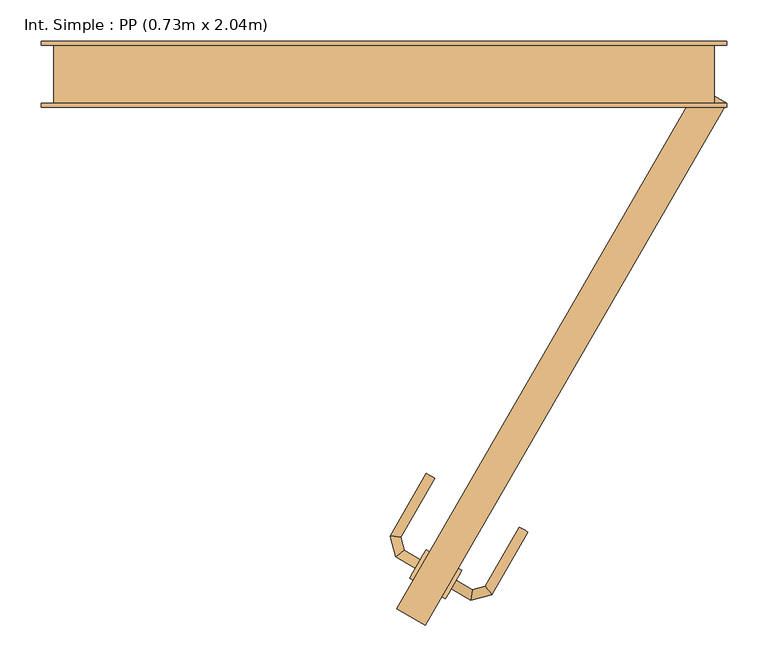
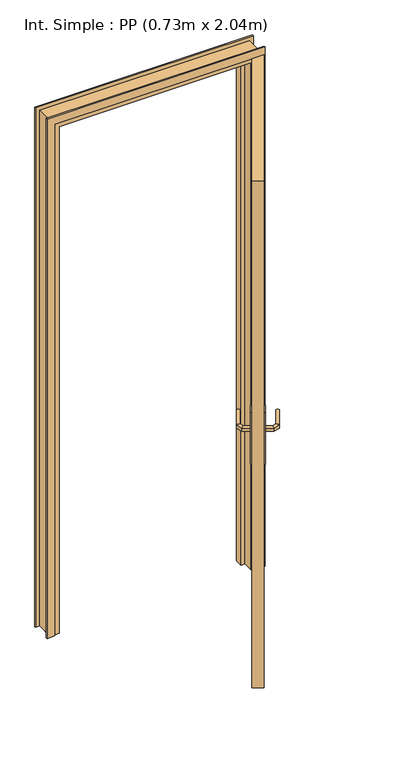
"""IFC4 building model written with IfcOpenShell, lengths in millimetres: door geometry, Int. Simple : PP (0.73m x 2.04m)."""

from ifc_helpers import new_model, si_unit, point, frame, frame_2d, origin, place, context, project, spatial, polyline, circle_curve, ellipse_curve, trimmed, segment, composite_curve, outline, extrude, faceted_brep, source, transform, mapped, element, save
from ifc_brep_helpers import plane_surface, cylinder_surface, advanced_brep


def int_simple_pp_0_73m_x_2_04m_0c6bfc17(model_context):
    return source(origin(), model_context, "Body", "SolidModel", [
        extrude(outline(composite_curve([segment(trimmed(circle_curve(frame_2d((0.0, -40.0)), 40.0), [point((-34.6410162, -60.0))], [point((-34.6410162, -20.0))], False, "CARTESIAN"), True, "CONTINUOUS"), segment(polyline([(-34.6410162, -20.0), (175.3589838, -20.0)]), True, "CONTINUOUS"), segment(trimmed(circle_curve(frame_2d((140.7179676, -40.0)), 40.0), [point((175.3589838, -20.0))], [point((175.3589838, -60.0))], False, "CARTESIAN"), True, "CONTINUOUS"), segment(polyline([(175.3589838, -60.0), (-34.6410162, -60.0)]), True, "CONTINUOUS")], self_intersect=False)), frame((69.330127, -583.0960044, 924.6410162), z_axis=(-0.8660254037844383, 0.5000000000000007, 0.0), x_axis=(0.0, 0.0, 1.0)), (0.0, 0.0, 1.0), 5.0),
        extrude(outline(composite_curve([segment(trimmed(circle_curve(frame_2d((0.0, -40.0)), 40.0), [point((34.6410162, -20.0))], [point((34.6410162, -60.0))], False, "CARTESIAN"), True, "CONTINUOUS"), segment(polyline([(34.6410162, -60.0), (-175.3589838, -60.0)]), True, "CONTINUOUS"), segment(trimmed(circle_curve(frame_2d((-140.7179676, -40.0)), 40.0), [point((-175.3589838, -60.0))], [point((-175.3589838, -20.0))], False, "CARTESIAN"), True, "CONTINUOUS"), segment(polyline([(-175.3589838, -20.0), (34.6410162, -20.0)]), True, "CONTINUOUS")], self_intersect=False)), frame((30.3589838, -560.5960044, 1065.3589838), z_axis=(-0.8660254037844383, 0.5000000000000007, 0.0), x_axis=(0.0, 0.0, 1.0)), (0.0, 0.0, 1.0), 5.0),
        advanced_brep(
        [(46.330127, -622.933173, 1027.0), (52.330127, -612.5408681, 1027.0), (52.330127, -612.5408681, 1013.0), (46.330127, -622.933173, 1013.0), (70.2765528, -636.7586483, 1027.0), (71.9719192, -623.8810621, 1027.0), (71.9719192, -623.8810621, 1013.0), (70.2765528, -636.7586483, 1013.0), (95.3802885, -630.0321226, 1027.0), (87.473265, -619.727489, 1027.0), (87.473265, -619.727489, 1013.0), (95.3802885, -630.0321226, 1013.0), (139.2010038, -554.1324173, 1027.0), (139.2010038, -554.1324173, 1013.0), (128.8086989, -548.1324173, 1013.0), (128.8086989, -548.1324173, 1027.0)],
        [
            (0, 1, circle_curve(frame((49.330127, -617.7370205, 1006.9542278), z_axis=(-0.8660254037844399, 0.49999999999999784, 0.0), x_axis=(0.49999999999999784, 0.8660254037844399, 0.0)), 20.9244589)),
            (1, 2),
            (2, 3, circle_curve(frame((49.330127, -617.7370205, 1033.0457722), z_axis=(-0.8660254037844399, 0.49999999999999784, 0.0), x_axis=(0.49999999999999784, 0.8660254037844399, 0.0)), 20.9244589)),
            (3, 0),
            (0, 4),
            (4, 5, ellipse_curve(frame((71.124236, -630.3198552, 1006.9542278), z_axis=(-0.9914448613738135, 0.13052619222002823, 0.0), x_axis=(0.13052619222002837, 0.9914448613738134, 0.0)), 22.6484711, 20.9244589)),
            (5, 1),
            (5, 6),
            (6, 2),
            (6, 7, ellipse_curve(frame((71.124236, -630.3198552, 1033.0457722), z_axis=(-0.9914448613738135, 0.13052619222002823, 0.0), x_axis=(0.13052619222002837, 0.9914448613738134, 0.0)), 22.6484711, 20.9244589)),
            (7, 3),
            (7, 4),
            (4, 8),
            (8, 9, ellipse_curve(frame((91.4267767, -624.8798058, 1006.9542278), z_axis=(-0.7933533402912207, -0.6087614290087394, 0.0), x_axis=(-0.6087614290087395, 0.7933533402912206, 0.0)), 22.6484711, 20.9244589)),
            (9, 5),
            (9, 10),
            (10, 6),
            (10, 11, ellipse_curve(frame((91.4267767, -624.8798058, 1033.0457722), z_axis=(-0.7933533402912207, -0.6087614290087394, 0.0), x_axis=(-0.6087614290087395, 0.7933533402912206, 0.0)), 22.6484711, 20.9244589)),
            (11, 7),
            (11, 8),
            (12, 13),
            (13, 14, circle_curve(frame((134.0048513, -551.1324173, 1033.0457722), z_axis=(0.49999999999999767, 0.86602540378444, 0.0), x_axis=(-0.86602540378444, 0.49999999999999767, 0.0)), 20.9244589)),
            (14, 15),
            (15, 12, circle_curve(frame((134.0048513, -551.1324173, 1006.9542278), z_axis=(0.49999999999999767, 0.86602540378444, 0.0), x_axis=(-0.86602540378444, 0.49999999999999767, 0.0)), 20.9244589)),
            (8, 12),
            (15, 9),
            (14, 10),
            (13, 11),
        ],
        [
            plane_surface(frame((44.7203548, -625.7213802, 1020.0), z_axis=(-0.8660254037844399, 0.49999999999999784, 0.0), x_axis=(0.0, 0.0, -1.0))),
            cylinder_surface(frame((49.330127, -617.7370205, 1006.9542278), z_axis=(-0.8660254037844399, 0.49999999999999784, 0.0), x_axis=(0.49999999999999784, 0.8660254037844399, 0.0)), 20.9244589),
            plane_surface(frame((52.330127, -612.5408681, 1027.0), z_axis=(0.49999999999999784, 0.8660254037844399, 0.0), x_axis=(0.8660254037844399, -0.49999999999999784, 0.0))),
            cylinder_surface(frame((49.330127, -617.7370205, 1033.0457722), z_axis=(-0.8660254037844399, 0.49999999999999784, 0.0), x_axis=(0.49999999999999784, 0.8660254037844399, 0.0)), 20.9244589),
            plane_surface(frame((46.330127, -622.933173, 1013.0), z_axis=(-0.49999999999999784, -0.8660254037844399, 0.0), x_axis=(0.8660254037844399, -0.49999999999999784, 0.0))),
            cylinder_surface(frame((71.124236, -630.3198552, 1006.9542278), z_axis=(-0.9659258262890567, -0.2588190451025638, 0.0), x_axis=(-0.2588190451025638, 0.9659258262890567, 0.0)), 20.9244589),
            plane_surface(frame((71.9719192, -623.8810621, 1027.0), z_axis=(-0.258819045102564, 0.9659258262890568, 0.0), x_axis=(0.9659258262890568, 0.258819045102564, 0.0))),
            cylinder_surface(frame((71.124236, -630.3198552, 1033.0457722), z_axis=(-0.9659258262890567, -0.2588190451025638, 0.0), x_axis=(-0.2588190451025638, 0.9659258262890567, 0.0)), 20.9244589),
            plane_surface(frame((70.2765528, -636.7586483, 1013.0), z_axis=(0.258819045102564, -0.9659258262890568, 0.0), x_axis=(0.9659258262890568, 0.258819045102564, 0.0))),
            plane_surface(frame((134.0048513, -551.1324173, 1010.7804555), z_axis=(0.49999999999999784, 0.8660254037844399, 0.0), x_axis=(-0.8660254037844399, 0.49999999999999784, 0.0))),
            cylinder_surface(frame((91.4267767, -624.8798058, 1006.9542278), z_axis=(-0.49999999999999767, -0.86602540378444, 0.0), x_axis=(-0.86602540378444, 0.49999999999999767, 0.0)), 20.9244589),
            plane_surface(frame((87.473265, -619.727489, 1027.0), z_axis=(-0.8660254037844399, 0.49999999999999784, 0.0), x_axis=(0.49999999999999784, 0.8660254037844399, 0.0))),
            cylinder_surface(frame((91.4267767, -624.8798058, 1033.0457722), z_axis=(-0.49999999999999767, -0.86602540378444, 0.0), x_axis=(-0.86602540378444, 0.49999999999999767, 0.0)), 20.9244589),
            plane_surface(frame((95.3802885, -630.0321226, 1013.0), z_axis=(0.8660254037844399, -0.49999999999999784, 0.0), x_axis=(0.49999999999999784, 0.8660254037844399, 0.0))),
        ],
        [
            (0, [[1, 2, 3, 4]]),
            (1, [[-1, 5, 6, 7]]),
            (2, [[-2, -7, 8, 9]]),
            (3, [[-3, -9, 10, 11]]),
            (4, [[-4, -11, 12, -5]]),
            (5, [[-6, 13, 14, 15]]),
            (6, [[-8, -15, 16, 17]]),
            (7, [[-10, -17, 18, 19]]),
            (8, [[-12, -19, 20, -13]]),
            (9, [[21, 22, 23, 24]]),
            (10, [[-14, 25, -24, 26]]),
            (11, [[-16, -26, -23, 27]]),
            (12, [[-18, -27, -22, 28]]),
            (13, [[-20, -28, -21, -25]]),
        ],
    ),
        advanced_brep(
        [(9.0288568, -587.5408681, 1013.0), (9.0288568, -587.5408681, 1027.0), (3.0288568, -597.933173, 1027.0), (3.0288568, -597.933173, 1013.0), (-10.4439015, -576.2982659, 1013.0), (-10.4439015, -576.2982659, 1027.0), (-20.7485351, -584.2052893, 1027.0), (-20.7485351, -584.2052893, 1013.0), (-14.6478062, -560.6090797, 1013.0), (-14.6478062, -560.6090797, 1027.0), (-27.5253925, -558.9137133, 1027.0), (-27.5253925, -558.9137133, 1013.0), (26.6324449, -489.1095874, 1013.0), (16.2401401, -483.1095874, 1013.0), (16.2401401, -483.1095874, 1027.0), (26.6324449, -489.1095874, 1027.0)],
        [
            (0, 1),
            (1, 2, circle_curve(frame((6.0288568, -592.7370205, 1006.9542278), z_axis=(0.8660254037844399, -0.49999999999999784, 0.0), x_axis=(-0.49999999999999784, -0.8660254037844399, 0.0)), 20.9244589)),
            (2, 3),
            (3, 0, circle_curve(frame((6.0288568, -592.7370205, 1033.0457722), z_axis=(0.8660254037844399, -0.49999999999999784, 0.0), x_axis=(-0.49999999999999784, -0.8660254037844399, 0.0)), 20.9244589)),
            (0, 4),
            (4, 5),
            (5, 1),
            (5, 6, ellipse_curve(frame((-15.5962183, -580.2517776, 1006.9542278), z_axis=(0.6087614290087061, -0.7933533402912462, 0.0), x_axis=(0.7933533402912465, 0.6087614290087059, 0.0)), 22.6484711, 20.9244589)),
            (6, 2),
            (6, 7),
            (7, 3),
            (7, 4, ellipse_curve(frame((-15.5962183, -580.2517776, 1033.0457722), z_axis=(0.6087614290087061, -0.7933533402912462, 0.0), x_axis=(0.7933533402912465, 0.6087614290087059, 0.0)), 22.6484711, 20.9244589)),
            (4, 8),
            (8, 9),
            (9, 5),
            (9, 10, ellipse_curve(frame((-21.0865993, -559.7613965, 1006.9542278), z_axis=(-0.13052619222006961, -0.991444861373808, 0.0), x_axis=(0.991444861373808, -0.13052619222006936, 0.0)), 22.6484711, 20.9244589)),
            (10, 6),
            (10, 11),
            (11, 7),
            (11, 8, ellipse_curve(frame((-21.0865993, -559.7613965, 1033.0457722), z_axis=(-0.13052619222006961, -0.991444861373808, 0.0), x_axis=(0.991444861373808, -0.13052619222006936, 0.0)), 22.6484711, 20.9244589)),
            (12, 13, circle_curve(frame((21.4362925, -486.1095874, 1033.0457722), z_axis=(0.49999999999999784, 0.8660254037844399, 0.0), x_axis=(-0.8660254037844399, 0.49999999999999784, 0.0)), 20.9244589)),
            (13, 14),
            (14, 15, circle_curve(frame((21.4362925, -486.1095874, 1006.9542278), z_axis=(0.49999999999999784, 0.8660254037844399, 0.0), x_axis=(-0.8660254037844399, 0.49999999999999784, 0.0)), 20.9244589)),
            (15, 12),
            (8, 12),
            (15, 9),
            (14, 10),
            (13, 11),
        ],
        [
            plane_surface(frame((1.4190846, -600.7213802, 1020.0), z_axis=(0.8660254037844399, -0.49999999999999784, 0.0), x_axis=(0.0, 0.0, 1.0))),
            plane_surface(frame((9.0288568, -587.5408681, 1013.0), z_axis=(0.49999999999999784, 0.8660254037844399, 0.0), x_axis=(-0.8660254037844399, 0.49999999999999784, 0.0))),
            cylinder_surface(frame((6.0288568, -592.7370205, 1006.9542278), z_axis=(0.8660254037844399, -0.49999999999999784, 0.0), x_axis=(-0.49999999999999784, -0.8660254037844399, 0.0)), 20.9244589),
            plane_surface(frame((3.0288568, -597.933173, 1027.0), z_axis=(-0.49999999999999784, -0.8660254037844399, 0.0), x_axis=(-0.8660254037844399, 0.49999999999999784, 0.0))),
            cylinder_surface(frame((6.0288568, -592.7370205, 1033.0457722), z_axis=(0.8660254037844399, -0.49999999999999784, 0.0), x_axis=(-0.49999999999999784, -0.8660254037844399, 0.0)), 20.9244589),
            plane_surface(frame((-10.4439015, -576.2982659, 1013.0), z_axis=(0.9659258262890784, 0.2588190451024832, 0.0), x_axis=(-0.2588190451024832, 0.9659258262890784, 0.0))),
            cylinder_surface(frame((-15.5962183, -580.2517776, 1006.9542278), z_axis=(0.2588190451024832, -0.9659258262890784, 0.0), x_axis=(-0.9659258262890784, -0.2588190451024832, 0.0)), 20.9244589),
            plane_surface(frame((-20.7485351, -584.2052893, 1027.0), z_axis=(-0.9659258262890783, -0.2588190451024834, 0.0), x_axis=(-0.2588190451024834, 0.9659258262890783, 0.0))),
            cylinder_surface(frame((-15.5962183, -580.2517776, 1033.0457722), z_axis=(0.2588190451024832, -0.9659258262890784, 0.0), x_axis=(-0.9659258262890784, -0.2588190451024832, 0.0)), 20.9244589),
            plane_surface(frame((21.4362925, -486.1095874, 1010.7804555), z_axis=(0.49999999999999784, 0.8660254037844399, 0.0), x_axis=(-0.8660254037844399, 0.49999999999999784, 0.0))),
            plane_surface(frame((-14.6478062, -560.6090797, 1013.0), z_axis=(0.8660254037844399, -0.49999999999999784, 0.0), x_axis=(0.49999999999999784, 0.8660254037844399, 0.0))),
            cylinder_surface(frame((-21.0865993, -559.7613965, 1006.9542278), z_axis=(-0.49999999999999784, -0.8660254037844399, 0.0), x_axis=(-0.8660254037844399, 0.49999999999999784, 0.0)), 20.9244589),
            plane_surface(frame((-27.5253925, -558.9137133, 1027.0), z_axis=(-0.8660254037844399, 0.49999999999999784, 0.0), x_axis=(0.49999999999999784, 0.8660254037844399, 0.0))),
            cylinder_surface(frame((-21.0865993, -559.7613965, 1033.0457722), z_axis=(-0.49999999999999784, -0.8660254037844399, 0.0), x_axis=(-0.8660254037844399, 0.49999999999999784, 0.0)), 20.9244589),
        ],
        [
            (0, [[1, 2, 3, 4]]),
            (1, [[-1, 5, 6, 7]]),
            (2, [[-2, -7, 8, 9]]),
            (3, [[-3, -9, 10, 11]]),
            (4, [[-4, -11, 12, -5]]),
            (5, [[-6, 13, 14, 15]]),
            (6, [[-8, -15, 16, 17]]),
            (7, [[-10, -17, 18, 19]]),
            (8, [[-12, -19, 20, -13]]),
            (9, [[21, 22, 23, 24]]),
            (10, [[-14, 25, -24, 26]]),
            (11, [[-16, -26, -23, 27]]),
            (12, [[-18, -27, -22, 28]]),
            (13, [[-20, -28, -21, -25]]),
        ],
    ),
        extrude(outline(polyline([(-19.6410162, -647.1985448), (345.3589838, -15.0), (380.0, -35.0), (15.0, -667.1985448), (-19.6410162, -647.1985448)])), frame((0.0, 0.0, 20.0), z_axis=(0.0, 0.0, 1.0), x_axis=(1.0, 0.0, 0.0)), (0.0, 0.0, 1.0), 2040.0),
        faceted_brep([(-435.0, -35.0, 0.0), (-435.0, 35.0, 0.0), (-385.0, 35.0, 0.0), (-385.0, 5.0, 0.0), (-400.0, 5.0, 0.0), (-400.0, -35.0, 0.0), (-435.0, -35.0, 2075.0), (-435.0, 35.0, 2075.0), (365.0, 35.0, 2075.0), (365.0, 35.0, 0.0), (315.0, 35.0, 0.0), (315.0, 35.0, 2025.0), (-385.0, 35.0, 2025.0), (-385.0, 5.0, 2025.0), (315.0, 5.0, 2025.0), (315.0, 5.0, 0.0), (330.0, 5.0, 0.0), (330.0, 5.0, 2040.0), (-400.0, 5.0, 2040.0), (-400.0, -35.0, 2040.0), (330.0, -35.0, 2040.0), (330.0, -35.0, 0.0), (365.0, -35.0, 0.0), (365.0, -35.0, 2075.0)], [[[0, 1, 2, 3, 4, 5]], [[1, 0, 6, 7]], [[2, 1, 7, 8, 9, 10, 11, 12]], [[3, 2, 12, 13]], [[4, 3, 13, 14, 15, 16, 17, 18]], [[5, 4, 18, 19]], [[0, 5, 19, 20, 21, 22, 23, 6]], [[8, 23, 22, 9]], [[22, 21, 16, 15, 10, 9]], [[14, 11, 10, 15]], [[20, 17, 16, 21]], [[7, 6, 23, 8]], [[13, 12, 11, 14]], [[19, 18, 17, 20]]]),
        extrude(outline(polyline([(0.0, -450.0), (0.0, -420.0), (2060.0, -420.0), (2060.0, 350.0), (0.0, 350.0), (0.0, 380.0), (2090.0, 380.0), (2090.0, -450.0), (0.0, -450.0)])), frame((0.0, -40.0, 0.0), z_axis=(0.0, 1.0, 0.0), x_axis=(0.0, 0.0, 1.0)), (0.0, 0.0, 1.0), 5.0),
        extrude(outline(polyline([(0.0, -450.0), (0.0, -420.0), (2060.0, -420.0), (2060.0, 350.0), (0.0, 350.0), (0.0, 380.0), (2090.0, 380.0), (2090.0, -450.0), (0.0, -450.0)])), frame((0.0, 35.0, 0.0), z_axis=(0.0, 1.0, 0.0), x_axis=(0.0, 0.0, 1.0)), (0.0, 0.0, 1.0), 5.0),
    ])


if __name__ == "__main__":
    model = new_model("IFC4")
    model_context = context("Model", 3, world=origin())
    ifc_project = project(units=[si_unit("LENGTHUNIT", "METRE", prefix="MILLI")], contexts=[model_context])
    site = spatial("IfcSite", under=ifc_project)
    building = spatial("IfcBuilding", under=site)
    placement = place(None, origin())
    int_simple_pp_0_73m_x_2_04m_shape = int_simple_pp_0_73m_x_2_04m_0c6bfc17(model_context)
    element("IfcDoor", 1, ObjectType="Int. Simple : PP (0.73m x 2.04m)", at=placement, inside=building, context=model_context, shape_type="MappedRepresentation", body=[
        mapped(int_simple_pp_0_73m_x_2_04m_shape, transform((0.0, 0.0, 0.0), x_axis=(1.0, 0.0, 0.0), y_axis=(0.0, 1.0, 0.0), z_axis=(0.0, 0.0, 1.0))),
    ])
    save(model, "model.ifc")
